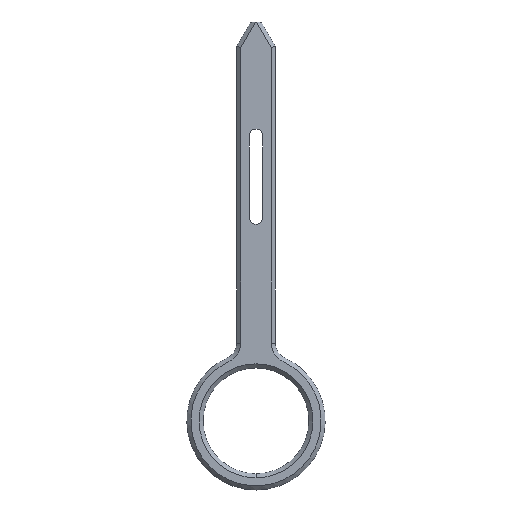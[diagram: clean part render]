
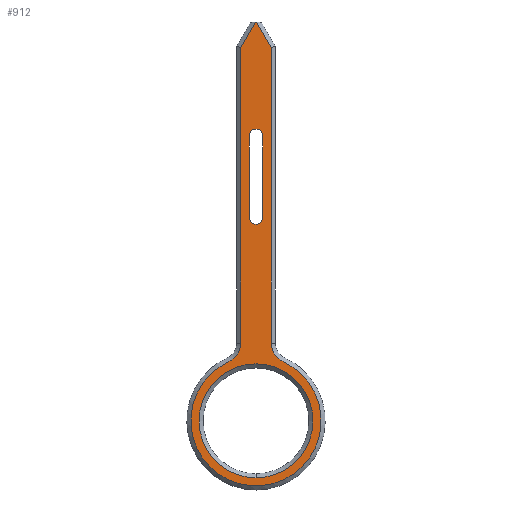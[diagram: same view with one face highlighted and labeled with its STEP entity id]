
A CAD part, front view. The second image highlights one B-rep face of the part: STEP entity #912.
In plain terms, the highlighted planar face has unit normal (0, -1, 0).
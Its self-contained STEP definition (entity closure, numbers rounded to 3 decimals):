
#3 = EDGE_CURVE ( 'NONE', #611, #384, #131, .T. ) ;
#5 = ORIENTED_EDGE ( 'NONE', *, *, #183, .T. ) ;
#14 = CARTESIAN_POINT ( 'NONE',  ( 3.75, -2.75, 3.09 ) ) ;
#16 = DIRECTION ( 'NONE',  ( 0., 1., 0. ) ) ;
#17 = DIRECTION ( 'NONE',  ( 0., 0., 1. ) ) ;
#18 = EDGE_CURVE ( 'NONE', #683, #1079, #410, .T. ) ;
#26 = AXIS2_PLACEMENT_3D ( 'NONE', #419, #279, #331 ) ;
#32 = CARTESIAN_POINT ( 'NONE',  ( -4.75, -2.75, 82. ) ) ;
#40 = VERTEX_POINT ( 'NONE', #482 ) ;
#41 = DIRECTION ( 'NONE',  ( 0., 0., 1. ) ) ;
#44 = AXIS2_PLACEMENT_3D ( 'NONE', #694, #451, #104 ) ;
#45 = VERTEX_POINT ( 'NONE', #574 ) ;
#51 = ORIENTED_EDGE ( 'NONE', *, *, #795, .T. ) ;
#54 = CARTESIAN_POINT ( 'NONE',  ( 0., -2.75, 55.7 ) ) ;
#75 = CARTESIAN_POINT ( 'NONE',  ( 3.75, -2.75, 82. ) ) ;
#83 = DIRECTION ( 'NONE',  ( 0., 0., 1. ) ) ;
#84 = ORIENTED_EDGE ( 'NONE', *, *, #286, .T. ) ;
#89 = EDGE_LOOP ( 'NONE', ( #647, #556, #423, #51, #852, #97, #182, #432 ) ) ;
#97 = ORIENTED_EDGE ( 'NONE', *, *, #587, .T. ) ;
#100 = CARTESIAN_POINT ( 'NONE',  ( -6.667, -2.75, -1.455 ) ) ;
#104 = DIRECTION ( 'NONE',  ( 0., 0., 1. ) ) ;
#112 = ORIENTED_EDGE ( 'NONE', *, *, #199, .T. ) ;
#122 = EDGE_LOOP ( 'NONE', ( #84, #341, #5, #397, #112 ) ) ;
#123 = CIRCLE ( 'NONE', #26, 14. ) ;
#124 = CIRCLE ( 'NONE', #1162, 1.7 ) ;
#131 = LINE ( 'NONE', #472, #207 ) ;
#135 = FACE_BOUND ( 'NONE', #122, .T. ) ;
#139 = CARTESIAN_POINT ( 'NONE',  ( 0., -2.75, -16. ) ) ;
#140 = CARTESIAN_POINT ( 'NONE',  ( -1.7, -2.75, 82. ) ) ;
#146 = DIRECTION ( 'NONE',  ( 0., 1., 0. ) ) ;
#154 = CARTESIAN_POINT ( 'NONE',  ( 8.75, -2.75, 3.09 ) ) ;
#164 = EDGE_CURVE ( 'NONE', #1025, #193, #124, .T. ) ;
#166 = CARTESIAN_POINT ( 'NONE',  ( 1.7, -2.75, 82. ) ) ;
#182 = ORIENTED_EDGE ( 'NONE', *, *, #1022, .T. ) ;
#183 = EDGE_CURVE ( 'NONE', #193, #683, #1040, .T. ) ;
#193 = VERTEX_POINT ( 'NONE', #867 ) ;
#199 = EDGE_CURVE ( 'NONE', #1079, #40, #326, .T. ) ;
#200 = CARTESIAN_POINT ( 'NONE',  ( 0., -2.75, -2. ) ) ;
#207 = VECTOR ( 'NONE', #745, 1000. ) ;
#211 = DIRECTION ( 'NONE',  ( 1., 0., 0. ) ) ;
#238 = DIRECTION ( 'NONE',  ( 0., 0., 1. ) ) ;
#273 = CIRCLE ( 'NONE', #1086, 5. ) ;
#277 = CARTESIAN_POINT ( 'NONE',  ( 0., -2.75, -30. ) ) ;
#279 = DIRECTION ( 'NONE',  ( 0., 1., 0. ) ) ;
#286 = EDGE_CURVE ( 'NONE', #40, #1025, #803, .T. ) ;
#305 = EDGE_LOOP ( 'NONE', ( #512, #841 ) ) ;
#310 = DIRECTION ( 'NONE',  ( 0., 1., 0. ) ) ;
#321 = LINE ( 'NONE', #32, #714 ) ;
#326 = CIRCLE ( 'NONE', #346, 1.7 ) ;
#327 = CARTESIAN_POINT ( 'NONE',  ( 0., -2.75, 54. ) ) ;
#331 = DIRECTION ( 'NONE',  ( 0., 0., 1. ) ) ;
#338 = DIRECTION ( 'NONE',  ( 0., 0., 1. ) ) ;
#341 = ORIENTED_EDGE ( 'NONE', *, *, #164, .T. ) ;
#346 = AXIS2_PLACEMENT_3D ( 'NONE', #327, #310, #238 ) ;
#349 = LINE ( 'NONE', #75, #747 ) ;
#362 = CARTESIAN_POINT ( 'NONE',  ( 0.131, -2.75, 82. ) ) ;
#384 = VERTEX_POINT ( 'NONE', #362 ) ;
#388 = VERTEX_POINT ( 'NONE', #100 ) ;
#391 = DIRECTION ( 'NONE',  ( 0., 1., 0. ) ) ;
#397 = ORIENTED_EDGE ( 'NONE', *, *, #18, .T. ) ;
#410 = CIRCLE ( 'NONE', #925, 1.7 ) ;
#419 = CARTESIAN_POINT ( 'NONE',  ( 0., -2.75, -16. ) ) ;
#423 = ORIENTED_EDGE ( 'NONE', *, *, #1001, .T. ) ;
#428 = LINE ( 'NONE', #1144, #430 ) ;
#430 = VECTOR ( 'NONE', #972, 1000. ) ;
#432 = ORIENTED_EDGE ( 'NONE', *, *, #3, .T. ) ;
#436 = EDGE_CURVE ( 'NONE', #388, #1133, #1066, .T. ) ;
#445 = EDGE_CURVE ( 'NONE', #468, #45, #789, .T. ) ;
#451 = DIRECTION ( 'NONE',  ( 0., -1., 0. ) ) ;
#455 = CARTESIAN_POINT ( 'NONE',  ( -0.131, -2.75, 82. ) ) ;
#461 = VERTEX_POINT ( 'NONE', #14 ) ;
#463 = DIRECTION ( 'NONE',  ( -0.5, 0., -0.866 ) ) ;
#468 = VERTEX_POINT ( 'NONE', #455 ) ;
#472 = CARTESIAN_POINT ( 'NONE',  ( 0.42, -2.75, 81.5 ) ) ;
#482 = CARTESIAN_POINT ( 'NONE',  ( 1.7, -2.75, 54. ) ) ;
#497 = CARTESIAN_POINT ( 'NONE',  ( -4.75, -2.75, 82. ) ) ;
#512 = ORIENTED_EDGE ( 'NONE', *, *, #531, .T. ) ;
#514 = VERTEX_POINT ( 'NONE', #965 ) ;
#531 = EDGE_CURVE ( 'NONE', #722, #762, #123, .T. ) ;
#553 = CARTESIAN_POINT ( 'NONE',  ( 6.667, -2.75, -1.455 ) ) ;
#556 = ORIENTED_EDGE ( 'NONE', *, *, #445, .T. ) ;
#566 = AXIS2_PLACEMENT_3D ( 'NONE', #828, #16, #652 ) ;
#574 = CARTESIAN_POINT ( 'NONE',  ( -3.75, -2.75, 75.732 ) ) ;
#579 = FACE_BOUND ( 'NONE', #305, .T. ) ;
#587 = EDGE_CURVE ( 'NONE', #1133, #461, #273, .T. ) ;
#611 = VERTEX_POINT ( 'NONE', #711 ) ;
#615 = VECTOR ( 'NONE', #945, 1000. ) ;
#647 = ORIENTED_EDGE ( 'NONE', *, *, #876, .F. ) ;
#652 = DIRECTION ( 'NONE',  ( 0., 0., 1. ) ) ;
#665 = CIRCLE ( 'NONE', #566, 5. ) ;
#683 = VERTEX_POINT ( 'NONE', #1152 ) ;
#694 = CARTESIAN_POINT ( 'NONE',  ( 0., -2.75, -16. ) ) ;
#697 = DIRECTION ( 'NONE',  ( 0., 0., 1. ) ) ;
#711 = CARTESIAN_POINT ( 'NONE',  ( 3.75, -2.75, 75.732 ) ) ;
#714 = VECTOR ( 'NONE', #211, 1000. ) ;
#722 = VERTEX_POINT ( 'NONE', #277 ) ;
#745 = DIRECTION ( 'NONE',  ( -0.5, 0., 0.866 ) ) ;
#747 = VECTOR ( 'NONE', #338, 1000. ) ;
#762 = VERTEX_POINT ( 'NONE', #200 ) ;
#766 = DIRECTION ( 'NONE',  ( 0., 1., 0. ) ) ;
#789 = LINE ( 'NONE', #988, #1032 ) ;
#795 = EDGE_CURVE ( 'NONE', #514, #388, #665, .T. ) ;
#797 = CARTESIAN_POINT ( 'NONE',  ( 1.7, -2.75, 34. ) ) ;
#803 = LINE ( 'NONE', #166, #1030 ) ;
#828 = CARTESIAN_POINT ( 'NONE',  ( -8.75, -2.75, 3.09 ) ) ;
#841 = ORIENTED_EDGE ( 'NONE', *, *, #929, .T. ) ;
#845 = DIRECTION ( 'NONE',  ( 0., 0., 1. ) ) ;
#852 = ORIENTED_EDGE ( 'NONE', *, *, #436, .T. ) ;
#854 = DIRECTION ( 'NONE',  ( 0., 1., 0. ) ) ;
#867 = CARTESIAN_POINT ( 'NONE',  ( -1.7, -2.75, 34. ) ) ;
#876 = EDGE_CURVE ( 'NONE', #468, #384, #321, .T. ) ;
#912 = ADVANCED_FACE ( 'NONE', ( #579, #937, #135 ), #1033, .F. ) ;
#925 = AXIS2_PLACEMENT_3D ( 'NONE', #1098, #391, #17 ) ;
#929 = EDGE_CURVE ( 'NONE', #762, #722, #1168, .T. ) ;
#937 = FACE_OUTER_BOUND ( 'NONE', #89, .T. ) ;
#945 = DIRECTION ( 'NONE',  ( 0., 0., 1. ) ) ;
#965 = CARTESIAN_POINT ( 'NONE',  ( -3.75, -2.75, 3.09 ) ) ;
#972 = DIRECTION ( 'NONE',  ( 0., 0., -1. ) ) ;
#981 = DIRECTION ( 'NONE',  ( 0., 1., 0. ) ) ;
#988 = CARTESIAN_POINT ( 'NONE',  ( -3.884, -2.75, 75.5 ) ) ;
#1001 = EDGE_CURVE ( 'NONE', #45, #514, #428, .T. ) ;
#1022 = EDGE_CURVE ( 'NONE', #461, #611, #349, .T. ) ;
#1025 = VERTEX_POINT ( 'NONE', #797 ) ;
#1030 = VECTOR ( 'NONE', #1164, 1000. ) ;
#1032 = VECTOR ( 'NONE', #463, 1000. ) ;
#1033 = PLANE ( 'NONE',  #1132 ) ;
#1040 = LINE ( 'NONE', #140, #615 ) ;
#1066 = CIRCLE ( 'NONE', #44, 16. ) ;
#1072 = AXIS2_PLACEMENT_3D ( 'NONE', #139, #766, #845 ) ;
#1079 = VERTEX_POINT ( 'NONE', #54 ) ;
#1086 = AXIS2_PLACEMENT_3D ( 'NONE', #154, #981, #83 ) ;
#1098 = CARTESIAN_POINT ( 'NONE',  ( 0., -2.75, 54. ) ) ;
#1132 = AXIS2_PLACEMENT_3D ( 'NONE', #497, #854, #41 ) ;
#1133 = VERTEX_POINT ( 'NONE', #553 ) ;
#1139 = CARTESIAN_POINT ( 'NONE',  ( 0., -2.75, 34. ) ) ;
#1144 = CARTESIAN_POINT ( 'NONE',  ( -3.75, -2.75, 82. ) ) ;
#1152 = CARTESIAN_POINT ( 'NONE',  ( -1.7, -2.75, 54. ) ) ;
#1162 = AXIS2_PLACEMENT_3D ( 'NONE', #1139, #146, #697 ) ;
#1164 = DIRECTION ( 'NONE',  ( 0., 0., -1. ) ) ;
#1168 = CIRCLE ( 'NONE', #1072, 14. ) ;
